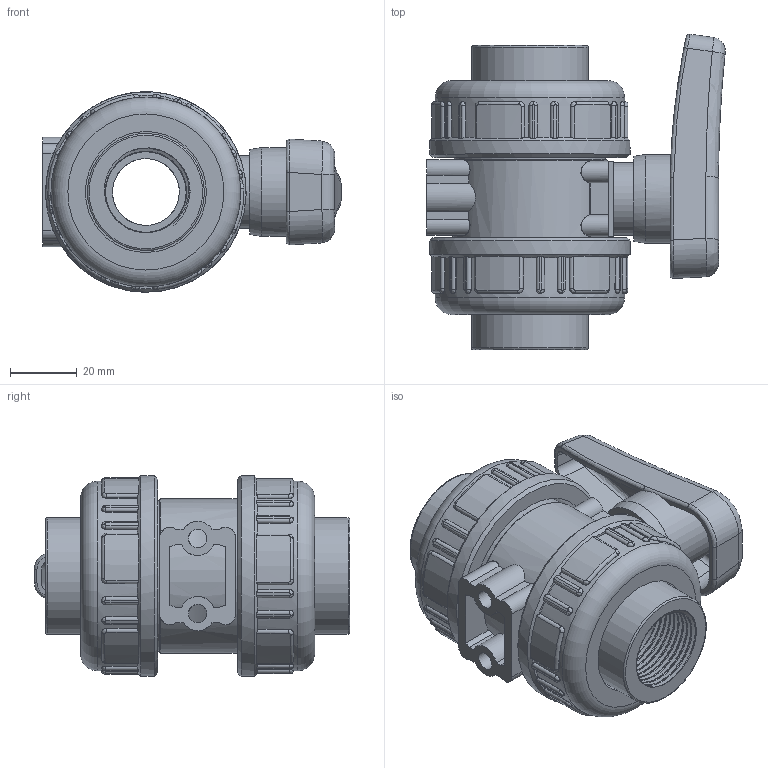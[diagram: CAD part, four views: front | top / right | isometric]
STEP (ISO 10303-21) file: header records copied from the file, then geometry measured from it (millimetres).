
FILE_DESCRIPTION(/* description */ (''),/* implementation_level */ '2;1');
FILE_NAME(/* name */ 'C:\Users\POLYPIPE\Desktop\DATASET INVENTOR\LIBRERIA EFFAST\3D_VALVOLE\3D_VALVOLE A SFERA\3D_BK1\3D_BERBK1E\3D_BERBK1E025C.stp',/* time_stamp */ '2018-01-23T17:12:25+01:00',/* author */ ('POLYPIPE'),/* organization */ (''),/* preprocessor_version */ 'ST-DEVELOPER v16.1',/* originating_system */ 'Autodesk Inventor 2016',/* authorisation */ '');
FILE_SCHEMA (('CONFIG_CONTROL_DESIGN'));
Length unit declared in the file: centimetre
Products named in the file (1): 3D_BERBK1E025C
Bounding box: 89.31 x 94.37 x 60 mm (x, y, z)
Volume: 157735.3 mm3; surface area: 54979.9 mm2
Topology: 1 solids, 2 shells, 591 faces, 1526 edges, 962 vertices
Faces by surface type: cylinder 193, plane 191, bspline 182, torus 20, cone 5
Full cylindrical faces by diameter (mm): 2.5 x4, 5.5 x2, 13.9 x1, 20 x2, 20.2 x1, 21.8 x1, 24.117 x2, 26.6 x1, 35 x2, 36.2 x2, 43 x2, 45.15 x2, 46.15 x1, 48.3 x2, 56.7 x2, 60 x2
Entity records: 69935 total; most frequent: CARTESIAN_POINT 56100, ORIENTED_EDGE 2942, DIRECTION 2396, EDGE_CURVE 1469, VERTEX_POINT 945, AXIS2_PLACEMENT_3D 913, EDGE_LOOP 658, STYLED_ITEM 592
